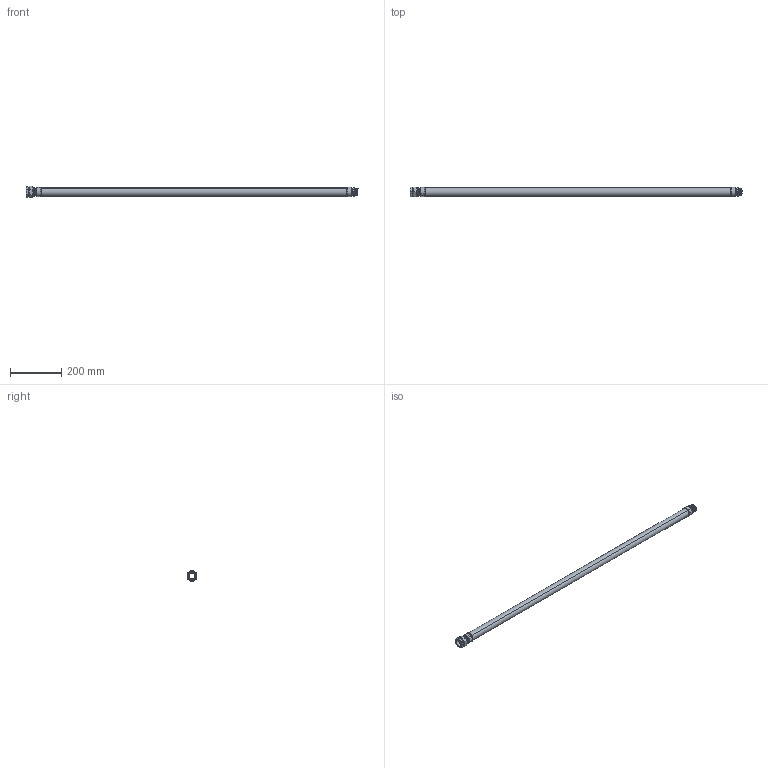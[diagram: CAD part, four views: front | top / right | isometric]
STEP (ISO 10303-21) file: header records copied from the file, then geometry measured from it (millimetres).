
FILE_DESCRIPTION (( 'STEP AP203' ), '1' );
FILE_NAME ('KP_T25-13S.step', '2011-08-08T11:46:33', ( '' ), ( '' ), 'SwSTEP 2.0', 'SolidWorks 2011', '' );
FILE_SCHEMA (( 'CONFIG_CONTROL_DESIGN' ));
Length unit declared in the file: millimetre
Products named in the file (1): KP_T25-13S
Bounding box: 1300 x 38.75 x 44.74 mm (x, y, z)
Volume: 571872.1 mm3; surface area: 245110.5 mm2
Topology: 3 solids, 3 shells, 163 faces, 393 edges, 248 vertices
Faces by surface type: cone 75, plane 48, cylinder 32, bspline 8
Entity records: 18352 total; most frequent: CARTESIAN_POINT 14702, ORIENTED_EDGE 786, DIRECTION 657, EDGE_CURVE 393, AXIS2_PLACEMENT_3D 257, VERTEX_POINT 248, EDGE_LOOP 181, ADVANCED_FACE 163
